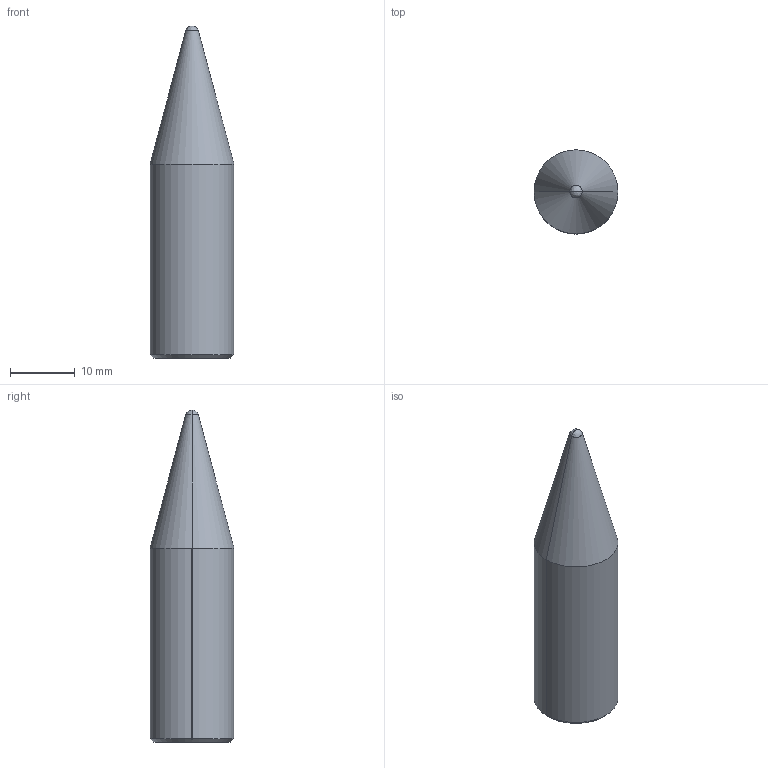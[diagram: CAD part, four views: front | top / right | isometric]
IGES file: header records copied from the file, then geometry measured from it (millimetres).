
Global section: file name: E:\UnigraphicsGraphicData\MISUMI_PRESS-PARTS\IGES\3d_snst13-b30_03110_r00.igs; native system: NX V5.0; preprocessor: UGS NX IGES V5.0; author: MISUMI; date: 20110105.162852; units: millimetre
Bounding box: 13 x 13 x 51.39 mm (x, y, z)
Surface area: 2078.4 mm2 (no closed solid volume)
Topology: 0 solids, 0 shells, 12 faces, 64 edges, 62 vertices
Faces by surface type: bspline 12
